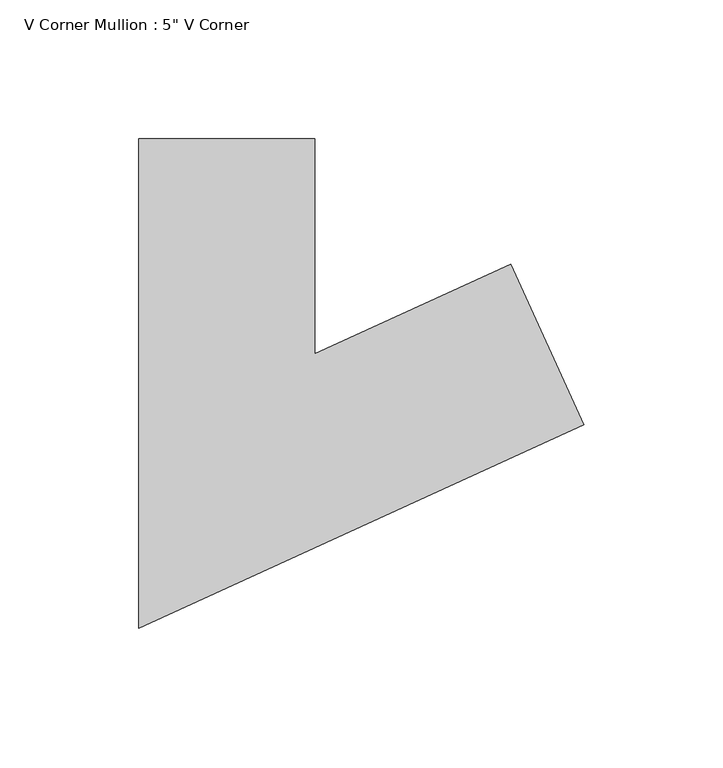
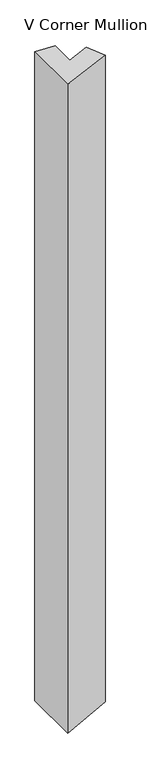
"""IFC4 building model written with IfcOpenShell, lengths in millimetres: member geometry."""

from ifc_helpers import new_model, si_unit, origin, place, context, project, spatial, faceted_brep, source, transform, mapped, element, save


def member_3e05a51b(model_context):
    return source(origin(), model_context, "Body", "Brep", [
        faceted_brep([(61.49523, 18.2208415, -1.9050457), (87.9205542, -39.5195451, -2.7236694), (87.9205542, -39.5195451, -2132.0546267), (61.49523, 18.2208415, -2132.5365315), (-9.0228811, -14.0523047, 0.2795176), (-9.0228811, -14.0523047, -2133.8225332), (-9.0228811, 63.5, 0.2795176), (-9.0228811, 63.5, -2133.8225332), (-72.5228811, 63.5, 2.2466686), (-72.5228811, 63.5, -2134.9805494), (-72.5228811, -112.9476953, 2.2466686), (-72.5228811, -112.9476953, -2134.9805494)], [[[0, 1, 2, 3]], [[4, 0, 3, 5]], [[6, 4, 5, 7]], [[8, 6, 7, 9]], [[10, 8, 9, 11]], [[1, 10, 11, 2]], [[1, 0, 4, 6, 8, 10]], [[2, 11, 9, 7, 5, 3]]]),
    ])


if __name__ == "__main__":
    model = new_model("IFC4")
    model_context = context("Model", 3, world=origin())
    ifc_project = project(units=[si_unit("LENGTHUNIT", "METRE", prefix="MILLI")], contexts=[model_context])
    site = spatial("IfcSite", under=ifc_project)
    building = spatial("IfcBuilding", under=site)
    placement = place(None, origin())
    member_shape = member_3e05a51b(model_context)
    element("IfcMember", 1, ObjectType="V Corner Mullion : 5\" V Corner", at=placement, inside=building, context=model_context, shape_type="MappedRepresentation", body=[
        mapped(member_shape, transform((0.0, 0.0, 0.0), x_axis=(1.0, 0.0, 0.0), y_axis=(0.0, 1.0, 0.0), z_axis=(0.0, 0.0, 1.0))),
    ])
    save(model, "model.ifc")
